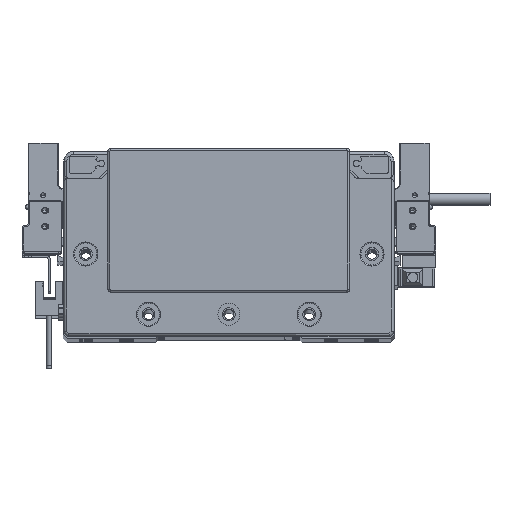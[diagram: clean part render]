
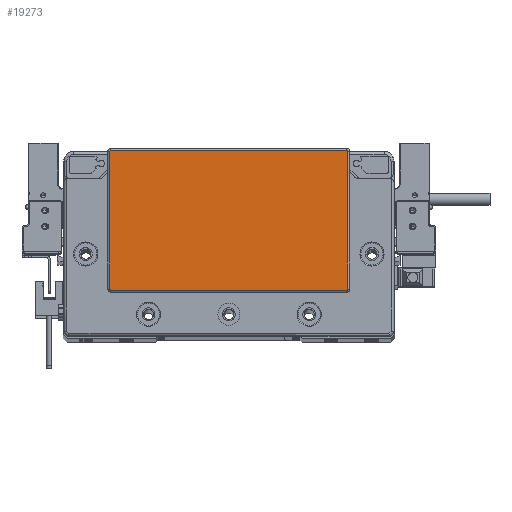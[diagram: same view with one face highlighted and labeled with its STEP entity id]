
A CAD part, top view. The second image highlights one B-rep face of the part: STEP entity #19273.
In plain terms, the highlighted planar face has unit normal (0, 0, 1) as drawn and (0, 0, -1) by its records, which use the part's own axes.
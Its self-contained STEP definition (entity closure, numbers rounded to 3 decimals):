
#528 = DIRECTION ( 'NONE',  ( -1., 0., 0. ) ) ;
#638 = EDGE_CURVE ( 'NONE', #84996, #53276, #22204, .T. ) ;
#1719 = DIRECTION ( 'NONE',  ( 0., 0., -1. ) ) ;
#8108 = DIRECTION ( 'NONE',  ( 0., 0., -1. ) ) ;
#8992 = EDGE_CURVE ( 'NONE', #85577, #38100, #83554, .T. ) ;
#9493 = CARTESIAN_POINT ( 'NONE',  ( -59.25, 45.3, -2. ) ) ;
#9756 = DIRECTION ( 'NONE',  ( -1., 0., 0. ) ) ;
#10237 = CIRCLE ( 'NONE', #81450, 0.5 ) ;
#10709 = VECTOR ( 'NONE', #47037, 1000. ) ;
#11257 = DIRECTION ( 'NONE',  ( 1., 0., 0. ) ) ;
#15374 = PLANE ( 'NONE',  #79048 ) ;
#18124 = EDGE_CURVE ( 'NONE', #38100, #22693, #48007, .T. ) ;
#19273 = ADVANCED_FACE ( 'NONE', ( #22496 ), #15374, .T. ) ;
#20655 = AXIS2_PLACEMENT_3D ( 'NONE', #80713, #81185, #528 ) ;
#20977 = CARTESIAN_POINT ( 'NONE',  ( -59.25, 45.3, -2. ) ) ;
#22072 = CARTESIAN_POINT ( 'NONE',  ( 59.25, 45.3, -2. ) ) ;
#22204 = CIRCLE ( 'NONE', #20655, 0.5 ) ;
#22496 = FACE_OUTER_BOUND ( 'NONE', #91657, .T. ) ;
#22693 = VERTEX_POINT ( 'NONE', #83662 ) ;
#22944 = VECTOR ( 'NONE', #11257, 1000. ) ;
#23722 = AXIS2_PLACEMENT_3D ( 'NONE', #80280, #8108, #66029 ) ;
#24198 = ORIENTED_EDGE ( 'NONE', *, *, #80679, .T. ) ;
#24984 = ORIENTED_EDGE ( 'NONE', *, *, #67592, .T. ) ;
#25174 = CARTESIAN_POINT ( 'NONE',  ( 59.25, -23.3, -2. ) ) ;
#26246 = CARTESIAN_POINT ( 'NONE',  ( -59.25, -23.3, -2. ) ) ;
#29614 = ORIENTED_EDGE ( 'NONE', *, *, #35224, .T. ) ;
#31177 = DIRECTION ( 'NONE',  ( 0., 0., -1. ) ) ;
#35224 = EDGE_CURVE ( 'NONE', #22693, #93105, #36827, .T. ) ;
#36827 = LINE ( 'NONE', #88063, #70707 ) ;
#37066 = CARTESIAN_POINT ( 'NONE',  ( 59.25, -23.3, -2. ) ) ;
#37206 = DIRECTION ( 'NONE',  ( 0., 0., -1. ) ) ;
#38100 = VERTEX_POINT ( 'NONE', #37066 ) ;
#39607 = EDGE_CURVE ( 'NONE', #56770, #84996, #86461, .T. ) ;
#44332 = CARTESIAN_POINT ( 'NONE',  ( 0., 0., -2. ) ) ;
#45841 = CARTESIAN_POINT ( 'NONE',  ( 58.75, 45.3, -2. ) ) ;
#46974 = CARTESIAN_POINT ( 'NONE',  ( -58.75, 45.8, -2. ) ) ;
#47037 = DIRECTION ( 'NONE',  ( 0., -1., 0. ) ) ;
#47136 = DIRECTION ( 'NONE',  ( -1., 0., 0. ) ) ;
#48007 = CIRCLE ( 'NONE', #23722, 0.5 ) ;
#51614 = CARTESIAN_POINT ( 'NONE',  ( -58.75, -23.3, -2. ) ) ;
#52950 = ORIENTED_EDGE ( 'NONE', *, *, #8992, .T. ) ;
#53276 = VERTEX_POINT ( 'NONE', #46974 ) ;
#56770 = VERTEX_POINT ( 'NONE', #26246 ) ;
#59837 = CARTESIAN_POINT ( 'NONE',  ( -58.75, -23.8, -2. ) ) ;
#63489 = VERTEX_POINT ( 'NONE', #78435 ) ;
#65789 = DIRECTION ( 'NONE',  ( -1., 0., 0. ) ) ;
#65892 = ORIENTED_EDGE ( 'NONE', *, *, #79255, .T. ) ;
#66029 = DIRECTION ( 'NONE',  ( -1., 0., 0. ) ) ;
#67592 = EDGE_CURVE ( 'NONE', #93105, #56770, #76679, .T. ) ;
#70455 = VECTOR ( 'NONE', #78893, 1000. ) ;
#70575 = AXIS2_PLACEMENT_3D ( 'NONE', #51614, #31177, #80557 ) ;
#70707 = VECTOR ( 'NONE', #65789, 1000. ) ;
#73257 = ORIENTED_EDGE ( 'NONE', *, *, #39607, .T. ) ;
#76287 = LINE ( 'NONE', #76761, #22944 ) ;
#76679 = CIRCLE ( 'NONE', #70575, 0.5 ) ;
#76761 = CARTESIAN_POINT ( 'NONE',  ( 58.75, 45.8, -2. ) ) ;
#78435 = CARTESIAN_POINT ( 'NONE',  ( 58.75, 45.8, -2. ) ) ;
#78893 = DIRECTION ( 'NONE',  ( 0., 1., 0. ) ) ;
#79048 = AXIS2_PLACEMENT_3D ( 'NONE', #44332, #37206, #47136 ) ;
#79255 = EDGE_CURVE ( 'NONE', #53276, #63489, #76287, .T. ) ;
#80280 = CARTESIAN_POINT ( 'NONE',  ( 58.75, -23.3, -2. ) ) ;
#80557 = DIRECTION ( 'NONE',  ( -1., 0., 0. ) ) ;
#80679 = EDGE_CURVE ( 'NONE', #63489, #85577, #10237, .T. ) ;
#80713 = CARTESIAN_POINT ( 'NONE',  ( -58.75, 45.3, -2. ) ) ;
#81185 = DIRECTION ( 'NONE',  ( 0., 0., -1. ) ) ;
#81420 = ORIENTED_EDGE ( 'NONE', *, *, #18124, .T. ) ;
#81450 = AXIS2_PLACEMENT_3D ( 'NONE', #45841, #1719, #9756 ) ;
#83554 = LINE ( 'NONE', #25174, #10709 ) ;
#83662 = CARTESIAN_POINT ( 'NONE',  ( 58.75, -23.8, -2. ) ) ;
#84996 = VERTEX_POINT ( 'NONE', #9493 ) ;
#85577 = VERTEX_POINT ( 'NONE', #22072 ) ;
#86246 = ORIENTED_EDGE ( 'NONE', *, *, #638, .T. ) ;
#86461 = LINE ( 'NONE', #20977, #70455 ) ;
#88063 = CARTESIAN_POINT ( 'NONE',  ( -58.75, -23.8, -2. ) ) ;
#91657 = EDGE_LOOP ( 'NONE', ( #52950, #81420, #29614, #24984, #73257, #86246, #65892, #24198 ) ) ;
#93105 = VERTEX_POINT ( 'NONE', #59837 ) ;
